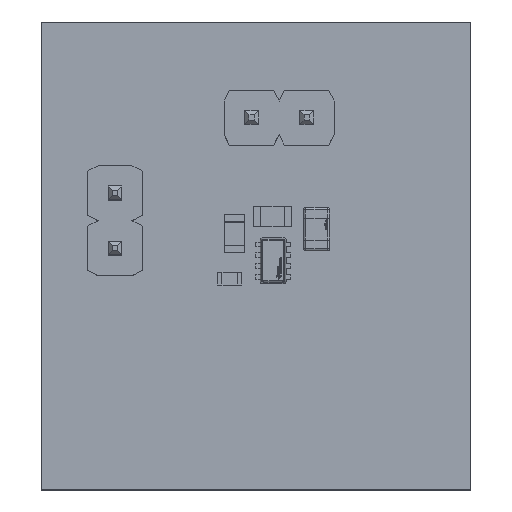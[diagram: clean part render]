
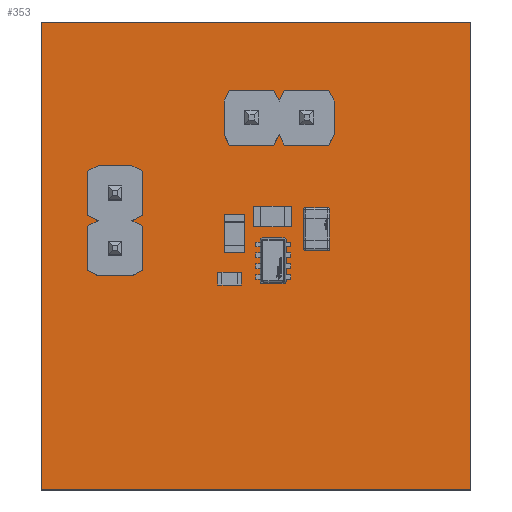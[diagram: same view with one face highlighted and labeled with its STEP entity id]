
A CAD part, top view. The second image highlights one B-rep face of the part: STEP entity #353.
In plain terms, the highlighted planar face has unit normal (0, 0, 1).
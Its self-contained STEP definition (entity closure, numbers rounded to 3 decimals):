
#80 = VERTEX_POINT('',#81);
#81 = CARTESIAN_POINT('',(0.,0.,1.036));
#87 = EDGE_CURVE('',#80,#88,#90,.T.);
#88 = VERTEX_POINT('',#89);
#89 = CARTESIAN_POINT('',(19.812,0.,1.036));
#90 = LINE('',#91,#92);
#91 = CARTESIAN_POINT('',(0.,0.,1.036));
#92 = VECTOR('',#93,1.);
#93 = DIRECTION('',(1.,0.,0.));
#118 = EDGE_CURVE('',#88,#119,#121,.T.);
#119 = VERTEX_POINT('',#120);
#120 = CARTESIAN_POINT('',(19.812,21.59,1.036));
#121 = LINE('',#122,#123);
#122 = CARTESIAN_POINT('',(19.812,0.,1.036));
#123 = VECTOR('',#124,1.);
#124 = DIRECTION('',(0.,1.,0.));
#149 = EDGE_CURVE('',#119,#150,#152,.T.);
#150 = VERTEX_POINT('',#151);
#151 = CARTESIAN_POINT('',(0.,21.59,1.036));
#152 = LINE('',#153,#154);
#153 = CARTESIAN_POINT('',(19.812,21.59,1.036));
#154 = VECTOR('',#155,1.);
#155 = DIRECTION('',(-1.,0.,0.));
#180 = EDGE_CURVE('',#150,#80,#181,.T.);
#181 = LINE('',#182,#183);
#182 = CARTESIAN_POINT('',(0.,21.59,1.036));
#183 = VECTOR('',#184,1.);
#184 = DIRECTION('',(0.,-1.,0.));
#204 = VERTEX_POINT('',#205);
#205 = CARTESIAN_POINT('',(3.979,11.151,1.036));
#211 = EDGE_CURVE('',#204,#204,#212,.T.);
#212 = CIRCLE('',#213,0.575);
#213 = AXIS2_PLACEMENT_3D('',#214,#215,#216);
#214 = CARTESIAN_POINT('',(3.404,11.151,1.036));
#215 = DIRECTION('',(0.,0.,1.));
#216 = DIRECTION('',(1.,0.,0.));
#237 = VERTEX_POINT('',#238);
#238 = CARTESIAN_POINT('',(3.979,13.691,1.036));
#244 = EDGE_CURVE('',#237,#237,#245,.T.);
#245 = CIRCLE('',#246,0.575);
#246 = AXIS2_PLACEMENT_3D('',#247,#248,#249);
#247 = CARTESIAN_POINT('',(3.404,13.691,1.036));
#248 = DIRECTION('',(0.,0.,1.));
#249 = DIRECTION('',(1.,0.,0.));
#270 = VERTEX_POINT('',#271);
#271 = CARTESIAN_POINT('',(12.818,17.17,1.036));
#277 = EDGE_CURVE('',#270,#270,#278,.T.);
#278 = CIRCLE('',#279,0.575);
#279 = AXIS2_PLACEMENT_3D('',#280,#281,#282);
#280 = CARTESIAN_POINT('',(12.243,17.17,1.036));
#281 = DIRECTION('',(0.,0.,1.));
#282 = DIRECTION('',(1.,0.,0.));
#303 = VERTEX_POINT('',#304);
#304 = CARTESIAN_POINT('',(10.278,17.17,1.036));
#310 = EDGE_CURVE('',#303,#303,#311,.T.);
#311 = CIRCLE('',#312,0.575);
#312 = AXIS2_PLACEMENT_3D('',#313,#314,#315);
#313 = CARTESIAN_POINT('',(9.703,17.17,1.036));
#314 = DIRECTION('',(0.,0.,1.));
#315 = DIRECTION('',(1.,0.,0.));
#353 = ADVANCED_FACE('',(#354,#360,#363,#366,#369),#372,.F.);
#354 = FACE_BOUND('',#355,.T.);
#355 = EDGE_LOOP('',(#356,#357,#358,#359));
#356 = ORIENTED_EDGE('',*,*,#87,.T.);
#357 = ORIENTED_EDGE('',*,*,#118,.T.);
#358 = ORIENTED_EDGE('',*,*,#149,.T.);
#359 = ORIENTED_EDGE('',*,*,#180,.T.);
#360 = FACE_BOUND('',#361,.F.);
#361 = EDGE_LOOP('',(#362));
#362 = ORIENTED_EDGE('',*,*,#211,.T.);
#363 = FACE_BOUND('',#364,.F.);
#364 = EDGE_LOOP('',(#365));
#365 = ORIENTED_EDGE('',*,*,#244,.T.);
#366 = FACE_BOUND('',#367,.F.);
#367 = EDGE_LOOP('',(#368));
#368 = ORIENTED_EDGE('',*,*,#277,.T.);
#369 = FACE_BOUND('',#370,.F.);
#370 = EDGE_LOOP('',(#371));
#371 = ORIENTED_EDGE('',*,*,#310,.T.);
#372 = PLANE('',#373);
#373 = AXIS2_PLACEMENT_3D('',#374,#375,#376);
#374 = CARTESIAN_POINT('',(0.,0.,1.036));
#375 = DIRECTION('',(0.,0.,-1.));
#376 = DIRECTION('',(-1.,0.,0.));
